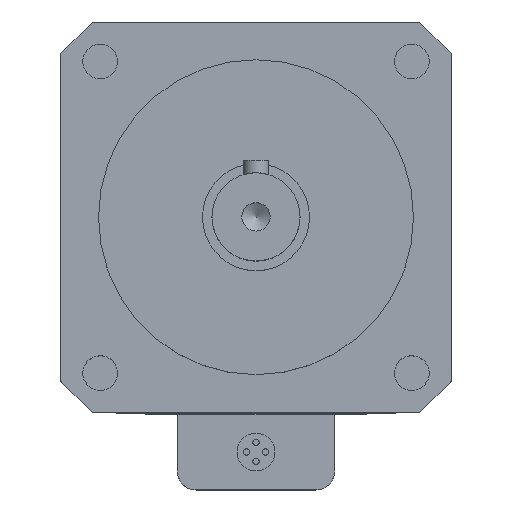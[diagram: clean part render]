
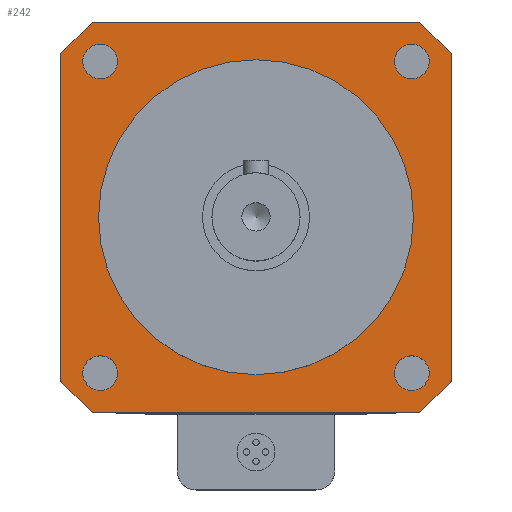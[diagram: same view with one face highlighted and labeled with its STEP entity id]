
A CAD part, top view. The second image highlights one B-rep face of the part: STEP entity #242.
In plain terms, the highlighted planar face has unit normal (0, 0, 1).
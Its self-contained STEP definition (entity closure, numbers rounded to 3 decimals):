
#242=ADVANCED_FACE('',(#737,#738,#739,#740,#741,#742),#351,.F.);
#351=PLANE('',#1992);
#420=LINE('',#2856,#579);
#421=LINE('',#2859,#580);
#422=LINE('',#2861,#581);
#423=LINE('',#2863,#582);
#424=LINE('',#2865,#583);
#425=LINE('',#2867,#584);
#426=LINE('',#2869,#585);
#427=LINE('',#2871,#586);
#579=VECTOR('',#2216,1.);
#580=VECTOR('',#2217,1.);
#581=VECTOR('',#2218,1.);
#582=VECTOR('',#2219,1.);
#583=VECTOR('',#2220,1.);
#584=VECTOR('',#2221,1.);
#585=VECTOR('',#2222,1.);
#586=VECTOR('',#2223,1.);
#737=FACE_BOUND('',#801,.T.);
#738=FACE_BOUND('',#802,.T.);
#739=FACE_BOUND('',#803,.T.);
#740=FACE_BOUND('',#804,.T.);
#741=FACE_BOUND('',#805,.T.);
#742=FACE_BOUND('',#806,.T.);
#801=EDGE_LOOP('',(#958));
#802=EDGE_LOOP('',(#959));
#803=EDGE_LOOP('',(#960,#961,#962,#963,#964,#965,#966,#967));
#804=EDGE_LOOP('',(#968));
#805=EDGE_LOOP('',(#969));
#806=EDGE_LOOP('',(#970));
#958=ORIENTED_EDGE('',*,*,#1649,.F.);
#959=ORIENTED_EDGE('',*,*,#1650,.F.);
#960=ORIENTED_EDGE('',*,*,#1651,.F.);
#961=ORIENTED_EDGE('',*,*,#1652,.T.);
#962=ORIENTED_EDGE('',*,*,#1653,.F.);
#963=ORIENTED_EDGE('',*,*,#1654,.T.);
#964=ORIENTED_EDGE('',*,*,#1655,.F.);
#965=ORIENTED_EDGE('',*,*,#1656,.T.);
#966=ORIENTED_EDGE('',*,*,#1657,.F.);
#967=ORIENTED_EDGE('',*,*,#1658,.T.);
#968=ORIENTED_EDGE('',*,*,#1659,.T.);
#969=ORIENTED_EDGE('',*,*,#1660,.F.);
#970=ORIENTED_EDGE('',*,*,#1661,.T.);
#1468=VERTEX_POINT('',#2853);
#1469=VERTEX_POINT('',#2855);
#1470=VERTEX_POINT('',#2857);
#1471=VERTEX_POINT('',#2858);
#1472=VERTEX_POINT('',#2860);
#1473=VERTEX_POINT('',#2862);
#1474=VERTEX_POINT('',#2864);
#1475=VERTEX_POINT('',#2866);
#1476=VERTEX_POINT('',#2868);
#1477=VERTEX_POINT('',#2870);
#1478=VERTEX_POINT('',#2873);
#1479=VERTEX_POINT('',#2875);
#1480=VERTEX_POINT('',#2877);
#1649=EDGE_CURVE('',#1468,#1468,#1892,.T.);
#1650=EDGE_CURVE('',#1469,#1469,#1893,.T.);
#1651=EDGE_CURVE('',#1470,#1471,#420,.T.);
#1652=EDGE_CURVE('',#1470,#1472,#421,.T.);
#1653=EDGE_CURVE('',#1473,#1472,#422,.T.);
#1654=EDGE_CURVE('',#1473,#1474,#423,.T.);
#1655=EDGE_CURVE('',#1475,#1474,#424,.T.);
#1656=EDGE_CURVE('',#1475,#1476,#425,.T.);
#1657=EDGE_CURVE('',#1477,#1476,#426,.T.);
#1658=EDGE_CURVE('',#1477,#1471,#427,.T.);
#1659=EDGE_CURVE('',#1478,#1478,#1894,.T.);
#1660=EDGE_CURVE('',#1479,#1479,#1895,.T.);
#1661=EDGE_CURVE('',#1480,#1480,#1896,.T.);
#1892=CIRCLE('',#1987,2.75);
#1893=CIRCLE('',#1988,2.75);
#1894=CIRCLE('',#1989,25.);
#1895=CIRCLE('',#1990,2.75);
#1896=CIRCLE('',#1991,2.75);
#1987=AXIS2_PLACEMENT_3D('',#2852,#2212,#2213);
#1988=AXIS2_PLACEMENT_3D('',#2854,#2214,#2215);
#1989=AXIS2_PLACEMENT_3D('',#2872,#2224,#2225);
#1990=AXIS2_PLACEMENT_3D('',#2874,#2226,#2227);
#1991=AXIS2_PLACEMENT_3D('',#2876,#2228,#2229);
#1992=AXIS2_PLACEMENT_3D('',#2878,#2230,#2231);
#2212=DIRECTION('',(0.,0.,1.));
#2213=DIRECTION('',(1.,0.,0.));
#2214=DIRECTION('',(0.,0.,1.));
#2215=DIRECTION('',(1.,0.,0.));
#2216=DIRECTION('',(0.,1.,0.));
#2217=DIRECTION('',(0.707,-0.707,0.));
#2218=DIRECTION('',(-1.,0.,0.));
#2219=DIRECTION('',(0.707,0.707,0.));
#2220=DIRECTION('',(0.,-1.,0.));
#2221=DIRECTION('',(-0.707,0.707,0.));
#2222=DIRECTION('',(1.,0.,0.));
#2223=DIRECTION('',(-0.707,-0.707,0.));
#2224=DIRECTION('',(0.,0.,-1.));
#2225=DIRECTION('',(1.,0.,0.));
#2226=DIRECTION('',(0.,0.,1.));
#2227=DIRECTION('',(1.,0.,0.));
#2228=DIRECTION('',(0.,0.,-1.));
#2229=DIRECTION('',(1.,0.,0.));
#2230=DIRECTION('',(0.,0.,-1.));
#2231=DIRECTION('',(-1.,0.,0.));
#2852=CARTESIAN_POINT('',(-24.749,24.749,0.));
#2853=CARTESIAN_POINT('',(-21.999,24.749,0.));
#2854=CARTESIAN_POINT('',(24.749,-24.749,0.));
#2855=CARTESIAN_POINT('',(27.499,-24.749,0.));
#2856=CARTESIAN_POINT('',(-31.,-31.,0.));
#2857=CARTESIAN_POINT('',(-31.,-26.,0.));
#2858=CARTESIAN_POINT('',(-31.,26.,0.));
#2859=CARTESIAN_POINT('',(-31.,-26.,0.));
#2860=CARTESIAN_POINT('',(-26.,-31.,0.));
#2861=CARTESIAN_POINT('',(31.,-31.,0.));
#2862=CARTESIAN_POINT('',(26.,-31.,0.));
#2863=CARTESIAN_POINT('',(26.,-31.,0.));
#2864=CARTESIAN_POINT('',(31.,-26.,0.));
#2865=CARTESIAN_POINT('',(31.,31.,0.));
#2866=CARTESIAN_POINT('',(31.,26.,0.));
#2867=CARTESIAN_POINT('',(31.,26.,0.));
#2868=CARTESIAN_POINT('',(26.,31.,0.));
#2869=CARTESIAN_POINT('',(-31.,31.,0.));
#2870=CARTESIAN_POINT('',(-26.,31.,0.));
#2871=CARTESIAN_POINT('',(-26.,31.,0.));
#2872=CARTESIAN_POINT('',(0.,0.,0.));
#2873=CARTESIAN_POINT('',(25.,0.,0.));
#2874=CARTESIAN_POINT('',(24.749,24.749,0.));
#2875=CARTESIAN_POINT('',(27.499,24.749,0.));
#2876=CARTESIAN_POINT('',(-24.749,-24.749,0.));
#2877=CARTESIAN_POINT('',(-21.999,-24.749,0.));
#2878=CARTESIAN_POINT('',(-31.,-31.,0.));
